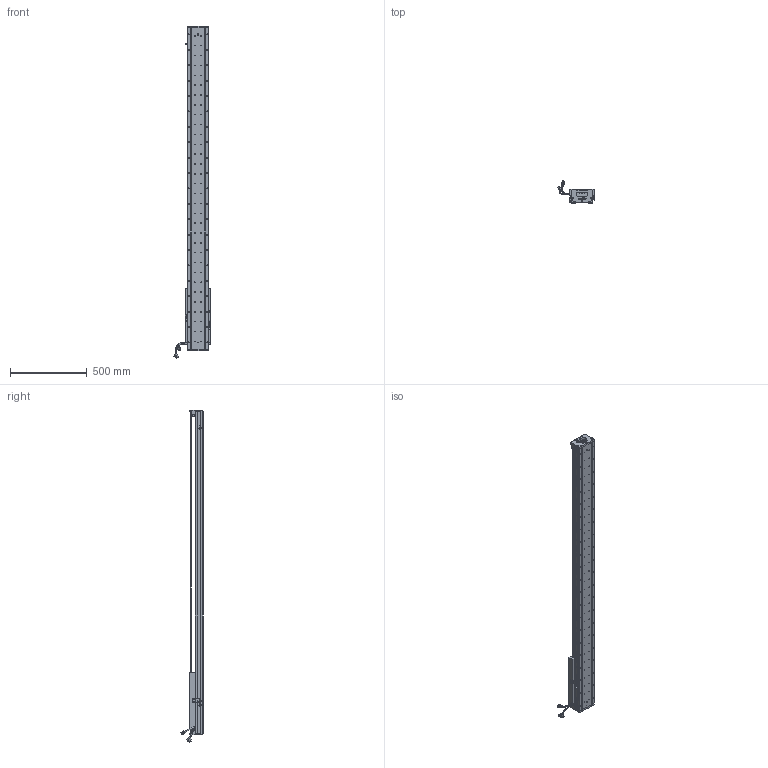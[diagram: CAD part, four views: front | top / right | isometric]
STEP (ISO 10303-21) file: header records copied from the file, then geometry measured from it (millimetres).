
FILE_DESCRIPTION (( 'STEP AP203' ), '1' );
FILE_NAME ('Z5-RY140D-1-L500-B-K.SLDASM_1650.step', '2021-05-17T08:37:22', ( '盈信电脑' ), ( '东莞市道滘镇水果街19号' ), 'SwSTEP 2.0', 'SolidWorks 2016', '' );
FILE_SCHEMA (( 'CONFIG_CONTROL_DESIGN' ));
Length unit declared in the file: millimetre
Products named in the file (36): HARNESS-Part-1; 覜茼ん672; SEAL; SCALE-Part-2; PSLH080_PSLF2; SCREW-M1.7-1; 140雄赽晤鎢ん堤盄; SEAL-Part-1; Z5-RY140-L500直线电机模组底座_1650; 140蚥薯蝶輸; PBU_SHEET; Z5-RY140-L500詩湍100mm遵_1650; LABEL; Z5-RY140圉猾敕臏賑輸(21遴); Z-RY140感应器672光电感应片; HOLDER0; COVER-Part-1; SHIELDPLATE; Z5-RY140D-1-L500-B-K.SLDASM_1650; SCREW-M1.6-1; SCALE; HARNESS; SCREW-M1.6-2; 詩湍狟揤裔; LABEL-Part-1; Z-140詩湍傷裔啣; COVER; 080黍杅芛假蚾釱21遴; SCREW-M1.6-3; SCREW-M1.6; SCALE-Part-1; HARNESS-Part-2; 詩湍奻揤裔; 榋妏寠巭燃_暯_M2_2; 140-Z-臏賑輸盄裔(21遴); SCREW-M1.7
Assembly tree (41 placements, depth 4):
  Z5-RY140D-1-L500-B-K.SLDASM_1650
    Z5-RY140-L500直线电机模组底座_1650
    Z-RY140感应器672光电感应片
    Z5-RY140圉猾敕臏賑輸(21遴)
    覜茼ん672  x3
    Z5-RY140-L500詩湍100mm遵_1650
    PSLH080_PSLF2
      SCALE
        SCALE-Part-1
        SCALE-Part-2
      HARNESS
        HARNESS-Part-1
        HARNESS-Part-2
      LABEL
        LABEL-Part-1
      COVER
        COVER-Part-1
      SEAL
        SEAL-Part-1
      榋妏寠巭燃_暯_M2_2
      SHIELDPLATE
      SCREW-M1.7
      SCREW-M1.7-1
      PBU_SHEET
      SCREW-M1.6
      SCREW-M1.6-1
      SCREW-M1.6-2
      SCREW-M1.6-3
      HOLDER0
    080黍杅芛假蚾釱21遴
    140-Z-臏賑輸盄裔(21遴)
    Z-140詩湍傷裔啣  x2
    詩湍狟揤裔  x2
    詩湍奻揤裔  x2
    140蚥薯蝶輸  x2
    140雄赽晤鎢ん堤盄
Bounding box: 239.84 x 143.88 x 2155.87 mm (x, y, z)
Volume: 7490297.1 mm3; surface area: 1908587.7 mm2
Topology: 36 solids, 36 shells, 3820 faces, 10308 edges, 6533 vertices
Faces by surface type: cylinder 2018, plane 1310, cone 370, torus 69, bspline 53
Entity records: 119040 total; most frequent: CARTESIAN_POINT 32633, ORIENTED_EDGE 17600, DIRECTION 16624, EDGE_CURVE 8800, AXIS2_PLACEMENT_3D 6188, VERTEX_POINT 5701, LINE 4248, VECTOR 4248
